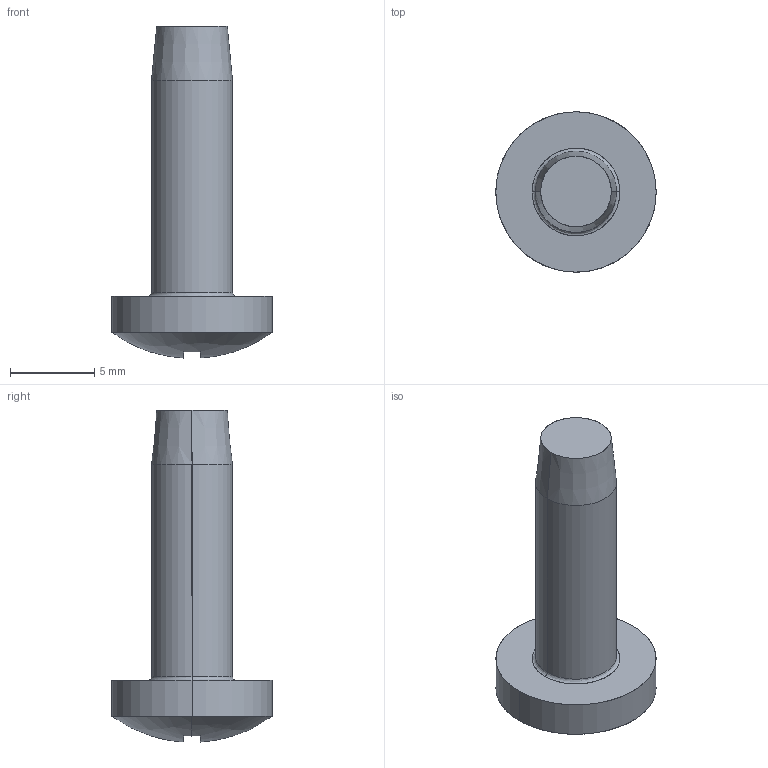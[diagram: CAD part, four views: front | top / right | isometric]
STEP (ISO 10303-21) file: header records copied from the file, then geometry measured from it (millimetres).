
FILE_DESCRIPTION (( 'STEP AP214' ), '1' );
FILE_NAME ('ENG-000433.STEP', '2005-03-31T14:35:15', ( '' ), ( '' ), 'SwSTEP 2.0', 'SolidWorks 2005074', '' );
FILE_SCHEMA (( 'AUTOMOTIVE_DESIGN' ));
Length unit declared in the file: millimetre
Products named in the file (1): ENG-000433
Bounding box: 9.5 x 9.5 x 19.67 mm (x, y, z)
Surface area: 465 mm2 (no closed solid volume)
Topology: 0 solids, 24 shells, 25 faces, 119 edges, 117 vertices
Faces by surface type: plane 15, cylinder 4, bspline 4, cone 2
Entity records: 1993 total; most frequent: CARTESIAN_POINT 865, DIRECTION 140, ORIENTED_EDGE 121, EDGE_CURVE 119, VERTEX_POINT 117, VECTOR 60, LINE 60, B_SPLINE_CURVE_WITH_KNOTS 41
